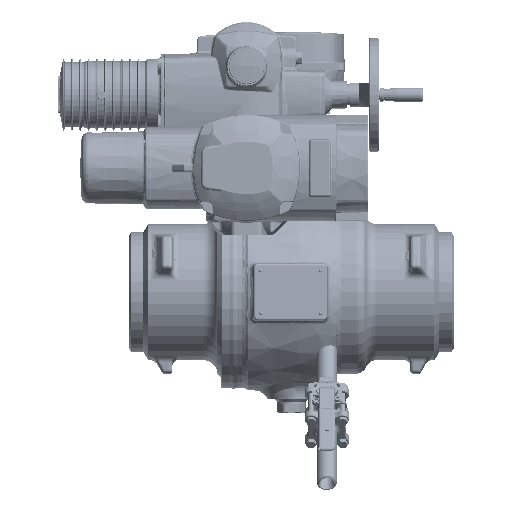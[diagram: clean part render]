
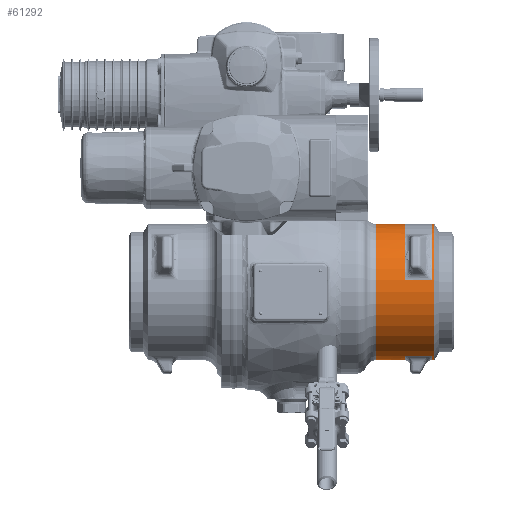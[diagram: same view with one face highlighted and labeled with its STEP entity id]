
A CAD part, front view. The second image highlights one B-rep face of the part: STEP entity #61292.
In plain terms, the highlighted cylindrical face has radius 96 mm (diameter 192 mm), a partial arc.
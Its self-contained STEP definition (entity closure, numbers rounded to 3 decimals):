
#14203=CARTESIAN_POINT('',(201.658,0.,0.));
#14204=DIRECTION('',(-1.,0.,0.));
#14205=DIRECTION('',(0.,0.,-1.));
#14206=AXIS2_PLACEMENT_3D('',#14203,#14204,#14205);
#14208=DIRECTION('',(-1.,0.,0.));
#14209=VECTOR('',#14208,3.385);
#14210=CARTESIAN_POINT('',(201.658,0.,-96.));
#14211=LINE('',#14210,#14209);
#14212=DIRECTION('',(-1.,0.,0.));
#14213=VECTOR('',#14212,38.774);
#14214=CARTESIAN_POINT('',(198.274,-32.815,
-90.217));
#14215=LINE('',#14214,#14213);
#14216=DIRECTION('',(-1.,0.,0.));
#14217=VECTOR('',#14216,39.5);
#14218=CARTESIAN_POINT('',(159.5,0.,-96.));
#14219=LINE('',#14218,#14217);
#14220=CARTESIAN_POINT('',(120.,0.,0.));
#14221=DIRECTION('',(1.,0.,0.));
#14222=DIRECTION('',(0.,0.,1.));
#14223=AXIS2_PLACEMENT_3D('',#14220,#14221,#14222);
#14225=DIRECTION('',(-1.,0.,0.));
#14226=VECTOR('',#14225,39.5);
#14227=CARTESIAN_POINT('',(159.5,0.,96.));
#14228=LINE('',#14227,#14226);
#14229=CARTESIAN_POINT('',(159.5,0.,0.));
#14230=DIRECTION('',(-1.,0.,0.));
#14231=DIRECTION('',(0.,-0.512,0.859));
#14232=AXIS2_PLACEMENT_3D('',#14229,#14230,#14231);
#14234=DIRECTION('',(-1.,0.,0.));
#14235=VECTOR('',#14234,38.774);
#14236=CARTESIAN_POINT('',(198.274,-94.538,
16.69));
#14237=LINE('',#14236,#14235);
#14238=CARTESIAN_POINT('',(198.274,0.,0.));
#14239=DIRECTION('',(1.,0.,0.));
#14240=DIRECTION('',(0.,0.,1.));
#14241=AXIS2_PLACEMENT_3D('',#14238,#14239,#14240);
#14243=DIRECTION('',(-1.,0.,0.));
#14244=VECTOR('',#14243,3.385);
#14245=CARTESIAN_POINT('',(201.658,0.,96.));
#14246=LINE('',#14245,#14244);
#14297=CARTESIAN_POINT('',(198.274,-32.815,
-90.217));
#14299=CARTESIAN_POINT('',(198.274,0.,0.));
#14300=DIRECTION('',(1.,0.,0.));
#14301=DIRECTION('',(0.,-0.342,-0.94));
#14302=AXIS2_PLACEMENT_3D('',#14299,#14300,#14301);
#14418=CARTESIAN_POINT('',(159.5,0.,0.));
#14419=DIRECTION('',(-1.,0.,0.));
#14420=DIRECTION('',(0.,0.,-1.));
#14421=AXIS2_PLACEMENT_3D('',#14418,#14419,#14420);
#14516=CARTESIAN_POINT('',(159.5,-32.815,-90.217));
#14841=CARTESIAN_POINT('',(159.5,-94.538,16.69));
#14843=CARTESIAN_POINT('',(159.5,0.,0.));
#14844=DIRECTION('',(-1.,0.,0.));
#14845=DIRECTION('',(0.,-0.985,0.174));
#14846=AXIS2_PLACEMENT_3D('',#14843,#14844,#14845);
#14955=CARTESIAN_POINT('',(198.274,0.,0.));
#14956=DIRECTION('',(1.,0.,0.));
#14957=DIRECTION('',(0.,-0.512,0.859));
#14958=AXIS2_PLACEMENT_3D('',#14955,#14956,#14957);
#15043=CARTESIAN_POINT('',(198.274,-94.538,
16.69));
#31785=CARTESIAN_POINT('',(120.,0.,96.));
#31786=CARTESIAN_POINT('',(120.,0.,-96.));
#31787=VERTEX_POINT('',#31785);
#31788=VERTEX_POINT('',#31786);
#31925=CARTESIAN_POINT('',(201.658,0.,96.));
#31926=CARTESIAN_POINT('',(201.658,0.,-96.));
#31927=VERTEX_POINT('',#31925);
#31928=VERTEX_POINT('',#31926);
#32918=CARTESIAN_POINT('',(159.5,0.,-96.));
#32919=VERTEX_POINT('',#32918);
#32920=CARTESIAN_POINT('',(159.5,0.,96.));
#32921=VERTEX_POINT('',#32920);
#32922=CARTESIAN_POINT('',(159.5,-49.127,82.478));
#32923=VERTEX_POINT('',#32922);
#32924=CARTESIAN_POINT('',(198.274,0.,96.));
#32925=CARTESIAN_POINT('',(198.274,-49.127,
82.478));
#32926=VERTEX_POINT('',#32924);
#32927=VERTEX_POINT('',#32925);
#32993=VERTEX_POINT('',#14841);
#33013=VERTEX_POINT('',#15043);
#33037=VERTEX_POINT('',#14297);
#33057=VERTEX_POINT('',#14516);
#33058=CARTESIAN_POINT('',(198.274,0.,-96.));
#33059=VERTEX_POINT('',#33058);
#61265=CARTESIAN_POINT('',(248.275,0.,0.));
#61266=DIRECTION('',(-1.,0.,0.));
#61267=DIRECTION('',(0.,0.,1.));
#61268=AXIS2_PLACEMENT_3D('',#61265,#61266,#61267);
#61269=CYLINDRICAL_SURFACE('',#61268,96.);
#61270=ORIENTED_EDGE('',*,*,#61256,.F.);
#61271=ORIENTED_EDGE('',*,*,#61221,.T.);
#61273=ORIENTED_EDGE('',*,*,#61272,.F.);
#61275=ORIENTED_EDGE('',*,*,#61274,.T.);
#61277=ORIENTED_EDGE('',*,*,#61276,.F.);
#61278=ORIENTED_EDGE('',*,*,#61213,.T.);
#61279=ORIENTED_EDGE('',*,*,#61175,.F.);
#61280=ORIENTED_EDGE('',*,*,#61210,.F.);
#61281=ORIENTED_EDGE('',*,*,#61208,.F.);
#61283=ORIENTED_EDGE('',*,*,#61282,.F.);
#61285=ORIENTED_EDGE('',*,*,#61284,.F.);
#61287=ORIENTED_EDGE('',*,*,#61286,.F.);
#61288=ORIENTED_EDGE('',*,*,#61204,.F.);
#61289=ORIENTED_EDGE('',*,*,#61202,.F.);
#61290=EDGE_LOOP('',(#61270,#61271,#61273,#61275,#61277,#61278,#61279,#61280,
#61281,#61283,#61285,#61287,#61288,#61289));
#61291=FACE_OUTER_BOUND('',#61290,.F.);
#61292=ADVANCED_FACE('',(#61291),#61269,.T.);
#14207=CIRCLE('',#14206,96.);
#14224=CIRCLE('',#14223,96.);
#14233=CIRCLE('',#14232,96.);
#14242=CIRCLE('',#14241,96.);
#14303=CIRCLE('',#14302,96.);
#14422=CIRCLE('',#14421,96.);
#14847=CIRCLE('',#14846,96.);
#14959=CIRCLE('',#14958,96.);
#61175=EDGE_CURVE('',#31787,#31788,#14224,.T.);
#61202=EDGE_CURVE('',#31927,#32926,#14246,.T.);
#61204=EDGE_CURVE('',#32926,#32927,#14242,.T.);
#61208=EDGE_CURVE('',#32923,#32921,#14233,.T.);
#61210=EDGE_CURVE('',#32921,#31787,#14228,.T.);
#61213=EDGE_CURVE('',#32919,#31788,#14219,.T.);
#61221=EDGE_CURVE('',#31928,#33059,#14211,.T.);
#61256=EDGE_CURVE('',#31928,#31927,#14207,.T.);
#61272=EDGE_CURVE('',#33037,#33059,#14303,.T.);
#61274=EDGE_CURVE('',#33037,#33057,#14215,.T.);
#61276=EDGE_CURVE('',#32919,#33057,#14422,.T.);
#61282=EDGE_CURVE('',#32993,#32923,#14847,.T.);
#61284=EDGE_CURVE('',#33013,#32993,#14237,.T.);
#61286=EDGE_CURVE('',#32927,#33013,#14959,.T.);
